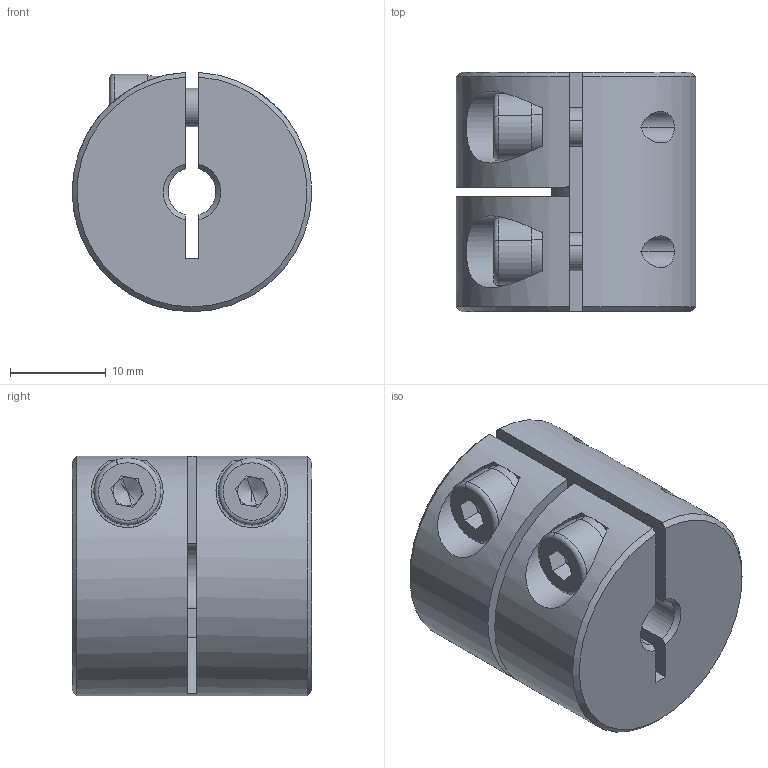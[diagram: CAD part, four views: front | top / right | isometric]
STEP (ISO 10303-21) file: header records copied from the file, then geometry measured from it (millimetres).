
FILE_DESCRIPTION (( 'STEP AP203' ), '1' );
FILE_NAME ('LL-B-D25L25-5-7.STEP', '2021-11-05T06:11:23', ( '' ), ( '' ), 'SwSTEP 2.0', 'SolidWorks 2018', '' );
FILE_SCHEMA (( 'CONFIG_CONTROL_DESIGN' ));
Length unit declared in the file: millimetre
Products named in the file (1): LL-B-D25L25-5-7
Bounding box: 24.99 x 25 x 24.98 mm (x, y, z)
Volume: 10682 mm3; surface area: 4957.6 mm2
Topology: 1 solids, 1 shells, 104 faces, 270 edges, 170 vertices
Faces by surface type: plane 52, cylinder 37, cone 11, torus 4
Entity records: 3471 total; most frequent: CARTESIAN_POINT 815, DIRECTION 560, ORIENTED_EDGE 532, EDGE_CURVE 266, AXIS2_PLACEMENT_3D 215, VERTEX_POINT 170, LINE 130, VECTOR 130
